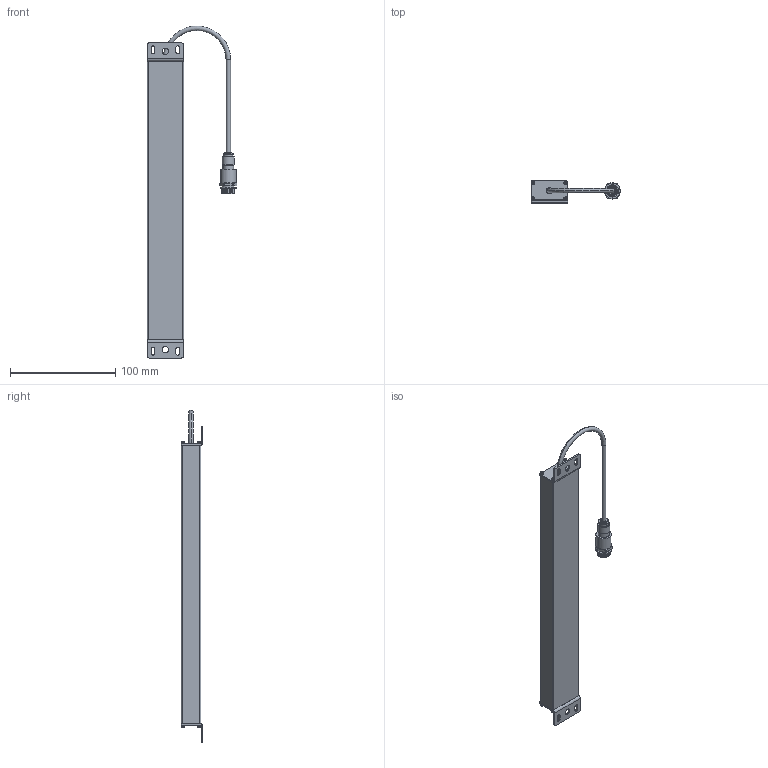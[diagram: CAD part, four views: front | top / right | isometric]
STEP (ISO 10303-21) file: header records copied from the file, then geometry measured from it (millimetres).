
FILE_DESCRIPTION((''),'2;1');
FILE_NAME('HNC-1220-LEFT_ASM','2020-09-17T',('Administrator'),(''),'PRO/ENGINEER BY PARAMETRIC TECHNOLOGY CORPORATION, 2010280','PRO/ENGINEER BY PARAMETRIC TECHNOLOGY CORPORATION, 2010280','');
FILE_SCHEMA(('AUTOMOTIVE_DESIGN { 1 2 10303 214 0 1 1 1 }'));
Length unit declared in the file: millimetre
Products named in the file (9): HNC-1220-SHELL-LEFT; HNC-1220-PCB-LEFT; HNC-1220-LED-5MM-LEFT; HNC-1220-WINDOWS-LEFT; HNC-1220-EAR-TOP-LEFT; HNC-1220-EAR-BOTTOM-LEFT; M2-10; HNC-LINE-LEFT; HNC-1220-LEFT_ASM
Assembly tree (26 placements, depth 2):
  HNC-1220-LEFT_ASM
    HNC-1220-SHELL-LEFT
    HNC-1220-PCB-LEFT
    HNC-1220-LED-5MM-LEFT  x12
    HNC-1220-WINDOWS-LEFT
    HNC-1220-EAR-TOP-LEFT
    HNC-1220-EAR-BOTTOM-LEFT
    M2-10  x8
    HNC-LINE-LEFT
Bounding box: 85.65 x 20.5 x 316.12 mm (x, y, z)
Volume: 77005.6 mm3; surface area: 99916.2 mm2
Topology: 26 solids, 26 shells, 1170 faces, 3083 edges, 1989 vertices
Faces by surface type: cylinder 545, plane 437, bspline 110, torus 34, sphere 24, cone 20
Entity records: 18788 total; most frequent: CARTESIAN_POINT 8804, ORIENTED_EDGE 1808, DIRECTION 1721, EDGE_CURVE 904, AXIS2_PLACEMENT_3D 611, VERTEX_POINT 590, VECTOR 499, LINE 499
